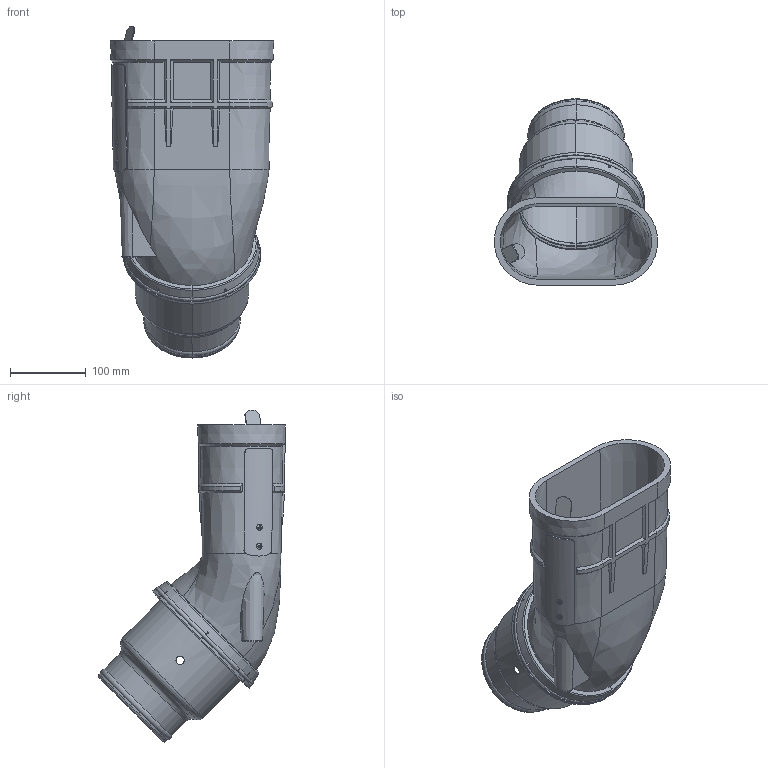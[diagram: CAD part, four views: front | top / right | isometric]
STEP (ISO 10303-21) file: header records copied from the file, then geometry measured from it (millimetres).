
FILE_DESCRIPTION((''),'2;1');
FILE_NAME('124240','2019-06-11T15:18:04',('Tomas Bellgran'),(''),'CREO PARAMETRIC BY PTC INC, 2018260','CREO PARAMETRIC BY PTC INC, 2018260','');
FILE_SCHEMA(('AUTOMOTIVE_DESIGN { 1 0 10303 214 1 1 1 1 }'));
Length unit declared in the file: millimetre
Products named in the file (7): 123944; 9531238; 145-210-3; 111000; 124209; 124219; 124240
Assembly tree (7 placements, depth 2):
  124240
    123944
    9531238
    145-210-3
    111000
    124209  x2
    124219
Bounding box: 216 x 247.36 x 439.16 mm (x, y, z)
Volume: 1078362.6 mm3; surface area: 535778.3 mm2
Topology: 7 solids, 9 shells, 370 faces, 986 edges, 622 vertices
Faces by surface type: plane 115, cylinder 106, cone 63, torus 54, bspline 22, extrusion 6, sphere 4
Entity records: 20507 total; most frequent: CARTESIAN_POINT 7559, ORIENTED_EDGE 1914, DIRECTION 1806, EDGE_CURVE 962, AXIS2_PLACEMENT_3D 712, PRESENTATION_STYLE_ASSIGNMENT 627, STYLED_ITEM 627, CURVE_STYLE 620
